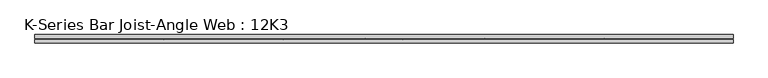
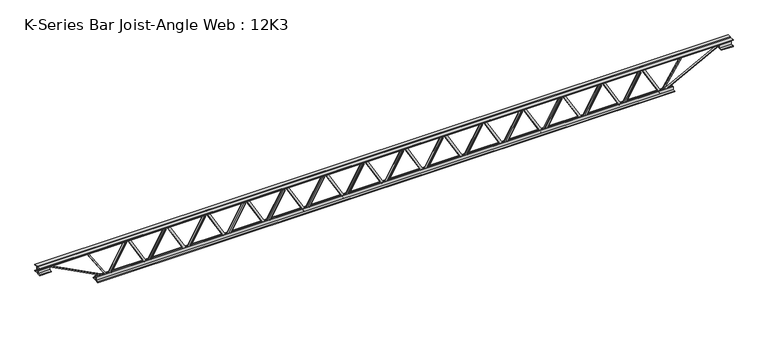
"""IFC4 building model written with IfcOpenShell, lengths in millimetres: beam geometry, K-Series Bar Joist-Angle Web : 12K3."""

import ifcopenshell
import ifcopenshell.guid

model = None  # the IFC model being written
_history = None  # IfcOwnerHistory: only IFC2X3 demands one
_inside = {}  # id of a spatial element -> (the spatial element, [elements in it])
_under = {}  # id of a project, library or spatial element -> (it, [spatial elements below it])
_declared = {}  # id of a project -> (the project, [libraries it declares])
_typed = {}  # id of a type object -> (the type object, [elements of that type])
_made_of = {}  # id of a material, layer set ... -> (it, [elements and type objects made of it])


def new_model(schema):
    """Start an empty IFC model of exactly this schema.

    Asked for "IFC4X3", IfcOpenShell would pick the latest addendum, in which some entities
    have other attributes; the version numbers below select the first issue.
    IFC2X3 requires an IfcOwnerHistory on every rooted entity: one is made here for all.
    """
    global model, _history
    if schema == "IFC4X3":
        model = ifcopenshell.file(schema_version=(4, 3, 0, 0))
    else:
        model = ifcopenshell.file(schema=schema)
    _inside.clear()
    _under.clear()
    _declared.clear()
    _typed.clear()
    _made_of.clear()
    _history = None
    if model.schema == "IFC2X3":
        org = make("IfcOrganization", Name="unknown")
        user = make(
            "IfcPersonAndOrganization",
            ThePerson=make("IfcPerson", FamilyName="unknown"),
            TheOrganization=org,
        )
        app = make(
            "IfcApplication",
            ApplicationDeveloper=org,
            Version="unknown",
            ApplicationFullName="unknown",
            ApplicationIdentifier="unknown",
        )
        _history = make(
            "IfcOwnerHistory",
            OwningUser=user,
            OwningApplication=app,
            ChangeAction="ADDED",
            CreationDate=0,
        )
    return model


def make(cls, **values):
    """One entity of the class cls with the attributes given. An attribute that is None is left unset."""
    return model.create_entity(
        cls, **{name: value for name, value in values.items() if value is not None}
    )


def rooted(cls, **values):
    """An entity with a GlobalId (a new one), such as an element, a storey or a relation."""
    return make(cls, GlobalId=ifcopenshell.guid.new(), OwnerHistory=_history, **values)


def si_unit(unit_type, name, prefix=None):
    """IfcSIUnit, for example si_unit("LENGTHUNIT", "METRE", prefix="MILLI")."""
    return make("IfcSIUnit", UnitType=unit_type, Prefix=prefix, Name=name)


def assignment(units):
    """IfcUnitAssignment: the units of a project."""
    return None if units is None else make("IfcUnitAssignment", Units=units)


def point(xyz):
    """IfcCartesianPoint."""
    return None if xyz is None else make("IfcCartesianPoint", Coordinates=xyz)


def direction(xyz):
    """IfcDirection."""
    return None if xyz is None else make("IfcDirection", DirectionRatios=xyz)


def frame(location, z_axis=None, x_axis=None):
    """IfcAxis2Placement3D, a coordinate frame: its origin and axes. An axis left out is left unset."""
    return make(
        "IfcAxis2Placement3D",
        Location=point(location),
        Axis=direction(z_axis),
        RefDirection=direction(x_axis),
    )


def origin():
    """The frame at (0, 0, 0) with its axes left unset."""
    return frame((0.0, 0.0, 0.0))


def place(relative_to, where):
    """IfcLocalPlacement: puts the frame where relative to a parent placement (None: the world)."""
    return make(
        "IfcLocalPlacement", PlacementRelTo=relative_to, RelativePlacement=where
    )


def context(
    kind, dimensions, precision=None, world=None, true_north=None, identifier=None
):
    """IfcGeometricRepresentationContext, for example the 3D "Model" context."""
    return make(
        "IfcGeometricRepresentationContext",
        ContextIdentifier=identifier,
        ContextType=kind,
        CoordinateSpaceDimension=dimensions,
        Precision=precision,
        WorldCoordinateSystem=world,
        TrueNorth=true_north,
    )


def project(units=None, contexts=None):
    """IfcProject with its units and contexts."""
    return rooted(
        "IfcProject",
        Name="project",
        RepresentationContexts=contexts,
        UnitsInContext=assignment(units),
    )


def spatial(cls, under=None, at=None, **own):
    """A site, building, storey or space (cls), placed at a placement, below another one or the project."""
    s = rooted(cls, ObjectPlacement=at, **own)
    if under is not None:
        _under.setdefault(under.id(), (under, []))[1].append(s)
    return s


def polyline(points):
    """IfcPolyline through the points."""
    return make("IfcPolyline", Points=[point(p) for p in points])


def outline(outer, holes=None, kind="AREA"):
    """IfcArbitraryClosedProfileDef: a profile drawn as a closed curve; with holes, ...WithVoids."""
    if holes is None:
        return make("IfcArbitraryClosedProfileDef", ProfileType=kind, OuterCurve=outer)
    return make(
        "IfcArbitraryProfileDefWithVoids",
        ProfileType=kind,
        OuterCurve=outer,
        InnerCurves=holes,
    )


def extrude(swept, where, along, depth):
    """IfcExtrudedAreaSolid: the profile swept, set in the frame where, extruded along a direction by depth."""
    return make(
        "IfcExtrudedAreaSolid",
        SweptArea=swept,
        Position=where,
        ExtrudedDirection=direction(along),
        Depth=depth,
    )


def faces_of(points, faces, orient=None, outer=None):
    """IfcFace entities. A face is a list of loops; a loop is a list of indices into points, from 0.

    orient and outer hold one flag for each loop. By default every Orientation is true, the
    first loop of a face is its IfcFaceOuterBound and the others are IfcFaceBound.
    """
    made = []
    for i, loops in enumerate(faces):
        bounds = []
        for j, loop in enumerate(loops):
            is_outer = j == 0 if outer is None else outer[i][j]
            bounds.append(
                make(
                    "IfcFaceOuterBound" if is_outer else "IfcFaceBound",
                    Bound=make("IfcPolyLoop", Polygon=[points[k] for k in loop]),
                    Orientation=True if orient is None else orient[i][j],
                )
            )
        made.append(make("IfcFace", Bounds=bounds))
    return made


def faceted_brep(points, faces, orient=None, outer=None, voids=None):
    """IfcFacetedBrep: a solid bounded by flat faces; with voids (closed shells), ...WithVoids."""
    shared = [point(p) for p in points]
    hull = make("IfcClosedShell", CfsFaces=faces_of(shared, faces, orient, outer))
    if voids is None:
        return make("IfcFacetedBrep", Outer=hull)
    return make(
        "IfcFacetedBrepWithVoids",
        Outer=hull,
        Voids=[
            make(cls, CfsFaces=faces_of(shared, fs, o, b)) for cls, fs, o, b in voids
        ],
    )


def shape(context_of_items, identifier, shape_type, items):
    """IfcShapeRepresentation: the items that make up one representation, for example the "Body"."""
    return make(
        "IfcShapeRepresentation",
        ContextOfItems=context_of_items,
        RepresentationIdentifier=identifier,
        RepresentationType=shape_type,
        Items=items,
    )


def source(mapping_origin, context_of_items, identifier, shape_type, items):
    """IfcRepresentationMap: a shape defined once, which mapped items show again and again."""
    return make(
        "IfcRepresentationMap",
        MappingOrigin=mapping_origin,
        MappedRepresentation=shape(context_of_items, identifier, shape_type, items),
    )


def transform(
    local_origin,
    x_axis=None,
    y_axis=None,
    z_axis=None,
    scale=None,
    scale2=None,
    scale3=None,
    uniform=True,
):
    """IfcCartesianTransformationOperator3D, or its non-uniform kind. x_axis, y_axis, z_axis: its Axis1, 2, 3."""
    if uniform:
        return make(
            "IfcCartesianTransformationOperator3D",
            Axis1=direction(x_axis),
            Axis2=direction(y_axis),
            LocalOrigin=point(local_origin),
            Scale=scale,
            Axis3=direction(z_axis),
        )
    return make(
        "IfcCartesianTransformationOperator3DnonUniform",
        Axis1=direction(x_axis),
        Axis2=direction(y_axis),
        LocalOrigin=point(local_origin),
        Scale=scale,
        Axis3=direction(z_axis),
        Scale2=scale2,
        Scale3=scale3,
    )


def mapped(mapping_source, mapping_target):
    """IfcMappedItem: shows the shape of a source again, moved by a transform."""
    return make(
        "IfcMappedItem", MappingSource=mapping_source, MappingTarget=mapping_target
    )


def made_of(thing, what):
    """Note that an element or type object is made of a material, layer set ...; save() writes the relation."""
    if what is not None:
        _made_of.setdefault(what.id(), (what, []))[1].append(thing)
    return thing


def element(
    cls,
    number,
    at=None,
    inside=None,
    cuts=None,
    type_object=None,
    material=None,
    context=None,
    identifier="Body",
    shape_type=None,
    held_by="IfcProductDefinitionShape",
    body=None,
    shapes=None,
    **own,
):
    """One element of the class cls, such as IfcWall. Its Tag is "e" and its number.

    at: its placement. inside: the storey or other place that contains it. cuts: it is an
    opening in that element (IfcRelVoidsElement). A single representation is given by context,
    identifier, shape_type and body (its items); several are given by shapes. held_by: the class
    of the entity that holds the representations. save() writes the other relations.
    """
    e = rooted(cls, Tag="e%d" % number, ObjectPlacement=at, **own)
    if body is not None:
        shapes = [shape(context, identifier, shape_type, body)]
    if shapes is not None:
        e.Representation = make(held_by, Representations=shapes)
    if inside is not None:
        _inside.setdefault(inside.id(), (inside, []))[1].append(e)
    if cuts is not None:
        rooted(
            "IfcRelVoidsElement", RelatingBuildingElement=cuts, RelatedOpeningElement=e
        )
    if type_object is not None:
        _typed.setdefault(type_object.id(), (type_object, []))[1].append(e)
    return made_of(e, material)


def aggregate(whole, parts):
    """IfcRelAggregates: a whole, such as a stair, and the parts it consists of."""
    return rooted("IfcRelAggregates", RelatingObject=whole, RelatedObjects=parts)


def save(model, path):
    """Write the relations noted so far, then the file.

    IfcRelAggregates (storeys below a building ...), IfcRelContainedInSpatialStructure (elements
    in a storey), IfcRelDefinesByType, IfcRelAssociatesMaterial and IfcRelDeclares: one each for
    every whole, place, type object, material and project.
    """
    for whole, parts in _under.values():
        aggregate(whole, parts)
    for where, things in _inside.values():
        rooted(
            "IfcRelContainedInSpatialStructure",
            RelatedElements=things,
            RelatingStructure=where,
        )
    for kind, things in _typed.values():
        rooted("IfcRelDefinesByType", RelatedObjects=things, RelatingType=kind)
    for what, things in _made_of.values():
        rooted("IfcRelAssociatesMaterial", RelatedObjects=things, RelatingMaterial=what)
    for by, libraries in _declared.values():
        rooted("IfcRelDeclares", RelatingContext=by, RelatedDefinitions=libraries)
    model.write(path)


def k_series_bar_joist_angle_web_12k3_b1730def(model_context):
    return source(origin(), model_context, "Body", "SolidModel", [
        extrude(outline(polyline([(-4.7625, 4.7624999), (-4.7625, 0.0), (-17.4625, 0.0), (-17.4625, 4.7624999), (-4.7625, 4.7624999)])), frame((2043.8650608, 0.0, -114.3), z_axis=(-0.4974653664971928, 0.0, 0.8674838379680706), x_axis=(0.0, -1.0, 0.0)), (0.0, 0.0, 1.0), 263.5207597),
        extrude(outline(polyline([(-149.225, 2075.7609203), (-130.175, 2075.7609203), (-130.175, 2074.9287665), (149.225, 1914.7046594), (149.225, 1896.4868132), (130.175, 1896.4868132), (130.175, 1903.668967), (-149.225, 2063.8930741), (-149.225, 2075.7609203)])), frame((0.0, 0.0, 0.0), z_axis=(0.0, 1.0, 0.0), x_axis=(0.0, 0.0, 1.0)), (0.0, 0.0, 1.0), 4.7625),
        faceted_brep([(1729.912706, 0.0, -130.175), (1729.912706, 0.0, -149.225), (1729.912706, -4.7625, -149.225), (1729.912706, -4.7625, -130.175), (1730.7448599, 0.0, -130.175), (1890.968967, 0.0, 149.225), (1909.1868132, 0.0, 149.225), (1909.1868132, 0.0, 130.175), (1902.0046594, 0.0, 130.175), (1741.7805522, 0.0, -149.225), (1741.7805522, -4.7625, -149.225), (1761.8085656, -4.7625, -114.3), (1757.6771738, -4.7625, -111.9308212), (1888.7696251, -4.7625, 116.6691788), (1892.9010169, -4.7625, 114.3), (1902.0046594, -4.7625, 130.175), (1909.1868132, -4.7625, 130.175), (1909.1868132, -4.7625, 149.225), (1890.968967, -4.7625, 149.225), (1730.7448599, -4.7625, -130.175), (1892.9010169, -17.4625, 114.3), (1761.8085656, -17.4625, -114.3), (1757.6771738, -17.4625, -111.9308212), (1888.7696251, -17.4625, 116.6691788)], [[[0, 1, 2, 3]], [[1, 0, 4, 5, 6, 7, 8, 9]], [[2, 1, 9, 10]], [[3, 2, 10, 11, 12, 13, 14, 15, 16, 17, 18, 19]], [[0, 3, 19, 4]], [[9, 8, 15, 14, 20, 21, 11, 10]], [[5, 4, 19, 18]], [[7, 6, 17, 16]], [[8, 7, 16, 15]], [[6, 5, 18, 17]], [[21, 22, 12, 11]], [[20, 14, 13, 23]], [[22, 21, 20, 23]], [[12, 22, 23, 13]]]),
        extrude(outline(polyline([(-4.7625, 4.7625), (-4.7625, 0.0), (-17.4625, 0.0), (-17.4625, 4.7625), (-4.7625, 4.7625)])), frame((1697.8947311, 0.0, -114.3), z_axis=(-0.4974653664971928, 0.0, 0.8674838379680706), x_axis=(0.0, -1.0, 0.0)), (0.0, 0.0, 1.0), 263.5207597),
        extrude(outline(polyline([(-149.225, 1729.7905907), (-130.175, 1729.7905907), (-130.175, 1728.9584368), (149.225, 1568.7343297), (149.225, 1550.5164835), (130.175, 1550.5164835), (130.175, 1557.6986373), (-149.225, 1717.9227445), (-149.225, 1729.7905907)])), frame((0.0, 0.0, 0.0), z_axis=(0.0, 1.0, 0.0), x_axis=(0.0, 0.0, 1.0)), (0.0, 0.0, 1.0), 4.7625),
        faceted_brep([(1383.9423764, 0.0, -130.175), (1383.9423764, 0.0, -149.225), (1383.9423764, -4.7625, -149.225), (1383.9423764, -4.7625, -130.175), (1384.7745302, 0.0, -130.175), (1544.9986373, 0.0, 149.225), (1563.2164835, 0.0, 149.225), (1563.2164835, 0.0, 130.175), (1556.0343297, 0.0, 130.175), (1395.8102226, 0.0, -149.225), (1395.8102226, -4.7625, -149.225), (1415.8382359, -4.7625, -114.3), (1411.7068442, -4.7625, -111.9308212), (1542.7992955, -4.7625, 116.6691788), (1546.9306872, -4.7625, 114.3), (1556.0343297, -4.7625, 130.175), (1563.2164835, -4.7625, 130.175), (1563.2164835, -4.7625, 149.225), (1544.9986373, -4.7625, 149.225), (1384.7745302, -4.7625, -130.175), (1546.9306872, -17.4625, 114.3), (1415.8382359, -17.4625, -114.3), (1411.7068442, -17.4625, -111.9308212), (1542.7992955, -17.4625, 116.6691788)], [[[0, 1, 2, 3]], [[1, 0, 4, 5, 6, 7, 8, 9]], [[2, 1, 9, 10]], [[3, 2, 10, 11, 12, 13, 14, 15, 16, 17, 18, 19]], [[0, 3, 19, 4]], [[9, 8, 15, 14, 20, 21, 11, 10]], [[5, 4, 19, 18]], [[7, 6, 17, 16]], [[8, 7, 16, 15]], [[6, 5, 18, 17]], [[21, 22, 12, 11]], [[20, 14, 13, 23]], [[22, 21, 20, 23]], [[12, 22, 23, 13]]]),
        extrude(outline(polyline([(-4.7625, 4.7625), (-4.7625, 0.0), (-17.4625, 0.0), (-17.4625, 4.7625), (-4.7625, 4.7625)])), frame((1351.9244014, 0.0, -114.3), z_axis=(-0.4974653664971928, 0.0, 0.8674838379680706), x_axis=(0.0, -1.0, 0.0)), (0.0, 0.0, 1.0), 263.5207597),
        extrude(outline(polyline([(-149.225, 1383.820261), (-130.175, 1383.820261), (-130.175, 1382.9881072), (149.225, 1222.764), (149.225, 1204.5461538), (130.175, 1204.5461538), (130.175, 1211.7283077), (-149.225, 1371.9524148), (-149.225, 1383.820261)])), frame((0.0, 0.0, 0.0), z_axis=(0.0, 1.0, 0.0), x_axis=(0.0, 0.0, 1.0)), (0.0, 0.0, 1.0), 4.7625),
        faceted_brep([(1037.9720467, 0.0, -130.175), (1037.9720467, 0.0, -149.225), (1037.9720467, -4.7625, -149.225), (1037.9720467, -4.7625, -130.175), (1038.8042005, 0.0, -130.175), (1199.0283077, 0.0, 149.225), (1217.2461538, 0.0, 149.225), (1217.2461538, 0.0, 130.175), (1210.064, 0.0, 130.175), (1049.8398929, 0.0, -149.225), (1049.8398929, -4.7625, -149.225), (1069.8679063, -4.7625, -114.3), (1065.7365145, -4.7625, -111.9308212), (1196.8289658, -4.7625, 116.6691788), (1200.9603576, -4.7625, 114.3), (1210.064, -4.7625, 130.175), (1217.2461538, -4.7625, 130.175), (1217.2461538, -4.7625, 149.225), (1199.0283077, -4.7625, 149.225), (1038.8042005, -4.7625, -130.175), (1200.9603576, -17.4625, 114.3), (1069.8679063, -17.4625, -114.3), (1065.7365145, -17.4625, -111.9308212), (1196.8289658, -17.4625, 116.6691788)], [[[0, 1, 2, 3]], [[1, 0, 4, 5, 6, 7, 8, 9]], [[2, 1, 9, 10]], [[3, 2, 10, 11, 12, 13, 14, 15, 16, 17, 18, 19]], [[0, 3, 19, 4]], [[9, 8, 15, 14, 20, 21, 11, 10]], [[5, 4, 19, 18]], [[7, 6, 17, 16]], [[8, 7, 16, 15]], [[6, 5, 18, 17]], [[21, 22, 12, 11]], [[20, 14, 13, 23]], [[22, 21, 20, 23]], [[12, 22, 23, 13]]]),
        extrude(outline(polyline([(-4.7625, 4.7625), (-4.7625, 0.0), (-17.4625, 0.0), (-17.4625, 4.7625), (-4.7625, 4.7625)])), frame((1005.9540717, 0.0, -114.3), z_axis=(-0.4974653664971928, 0.0, 0.8674838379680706), x_axis=(0.0, -1.0, 0.0)), (0.0, 0.0, 1.0), 263.5207597),
        extrude(outline(polyline([(-149.225, 1037.8499313), (-130.175, 1037.8499313), (-130.175, 1037.0177775), (149.225, 876.7936704), (149.225, 858.5758242), (130.175, 858.5758242), (130.175, 865.757978), (-149.225, 1025.9820851), (-149.225, 1037.8499313)])), frame((0.0, 0.0, 0.0), z_axis=(0.0, 1.0, 0.0), x_axis=(0.0, 0.0, 1.0)), (0.0, 0.0, 1.0), 4.7625),
        faceted_brep([(692.001717, 0.0, -130.175), (692.001717, 0.0, -149.225), (692.001717, -4.7625, -149.225), (692.001717, -4.7625, -130.175), (692.8338709, 0.0, -130.175), (853.057978, 0.0, 149.225), (871.2758242, 0.0, 149.225), (871.2758242, 0.0, 130.175), (864.0936704, 0.0, 130.175), (703.8695632, 0.0, -149.225), (703.8695632, -4.7625, -149.225), (723.8975766, -4.7625, -114.3), (719.7661848, -4.7625, -111.9308212), (850.8586361, -4.7625, 116.6691788), (854.9900279, -4.7625, 114.3), (864.0936704, -4.7625, 130.175), (871.2758242, -4.7625, 130.175), (871.2758242, -4.7625, 149.225), (853.057978, -4.7625, 149.225), (692.8338709, -4.7625, -130.175), (854.9900279, -17.4625, 114.3), (723.8975766, -17.4625, -114.3), (719.7661848, -17.4625, -111.9308212), (850.8586361, -17.4625, 116.6691788)], [[[0, 1, 2, 3]], [[1, 0, 4, 5, 6, 7, 8, 9]], [[2, 1, 9, 10]], [[3, 2, 10, 11, 12, 13, 14, 15, 16, 17, 18, 19]], [[0, 3, 19, 4]], [[9, 8, 15, 14, 20, 21, 11, 10]], [[5, 4, 19, 18]], [[7, 6, 17, 16]], [[8, 7, 16, 15]], [[6, 5, 18, 17]], [[21, 22, 12, 11]], [[20, 14, 13, 23]], [[22, 21, 20, 23]], [[12, 22, 23, 13]]]),
        extrude(outline(polyline([(-4.7625, 4.7625), (-4.7625, 0.0), (-17.4625, 0.0), (-17.4625, 4.7625), (-4.7625, 4.7625)])), frame((659.9837421, 0.0, -114.3), z_axis=(-0.4974653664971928, 0.0, 0.8674838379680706), x_axis=(0.0, -1.0, 0.0)), (0.0, 0.0, 1.0), 263.5207597),
        extrude(outline(polyline([(-149.225, 691.8796016), (-130.175, 691.8796016), (-130.175, 691.0474478), (149.225, 530.8233407), (149.225, 512.6054945), (130.175, 512.6054945), (130.175, 519.7876483), (-149.225, 680.0117555), (-149.225, 691.8796016)])), frame((0.0, 0.0, 0.0), z_axis=(0.0, 1.0, 0.0), x_axis=(0.0, 0.0, 1.0)), (0.0, 0.0, 1.0), 4.7625),
        faceted_brep([(346.0313874, 0.0, -130.175), (346.0313874, 0.0, -149.225), (346.0313874, -4.7625, -149.225), (346.0313874, -4.7625, -130.175), (346.8635412, 0.0, -130.175), (507.0876483, 0.0, 149.225), (525.3054945, 0.0, 149.225), (525.3054945, 0.0, 130.175), (518.1233407, 0.0, 130.175), (357.8992335, 0.0, -149.225), (357.8992335, -4.7625, -149.225), (377.9272469, -4.7625, -114.3), (373.7958552, -4.7625, -111.9308212), (504.8883065, -4.7625, 116.6691788), (509.0196982, -4.7625, 114.3), (518.1233407, -4.7625, 130.175), (525.3054945, -4.7625, 130.175), (525.3054945, -4.7625, 149.225), (507.0876483, -4.7625, 149.225), (346.8635412, -4.7625, -130.175), (509.0196982, -17.4625, 114.3), (377.9272469, -17.4625, -114.3), (373.7958552, -17.4625, -111.9308212), (504.8883065, -17.4625, 116.6691788)], [[[0, 1, 2, 3]], [[1, 0, 4, 5, 6, 7, 8, 9]], [[2, 1, 9, 10]], [[3, 2, 10, 11, 12, 13, 14, 15, 16, 17, 18, 19]], [[0, 3, 19, 4]], [[9, 8, 15, 14, 20, 21, 11, 10]], [[5, 4, 19, 18]], [[7, 6, 17, 16]], [[8, 7, 16, 15]], [[6, 5, 18, 17]], [[21, 22, 12, 11]], [[20, 14, 13, 23]], [[22, 21, 20, 23]], [[12, 22, 23, 13]]]),
        extrude(outline(polyline([(-4.7625, 4.7625), (-4.7625, 0.0), (-17.4625, 0.0), (-17.4625, 4.7625), (-4.7625, 4.7625)])), frame((314.0134124, 0.0, -114.3), z_axis=(-0.4974653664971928, 0.0, 0.8674838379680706), x_axis=(0.0, -1.0, 0.0)), (0.0, 0.0, 1.0), 263.5207597),
        extrude(outline(polyline([(-149.225, 345.909272), (-130.175, 345.909272), (-130.175, 345.0771182), (149.225, 184.853011), (149.225, 166.6351648), (130.175, 166.6351648), (130.175, 173.8173187), (-149.225, 334.0414258), (-149.225, 345.909272)])), frame((0.0, 0.0, 0.0), z_axis=(0.0, 1.0, 0.0), x_axis=(0.0, 0.0, 1.0)), (0.0, 0.0, 1.0), 4.7625),
        faceted_brep([(0.0610577, 0.0, -130.175), (0.0610577, 0.0, -149.225), (0.0610577, -4.7625, -149.225), (0.0610577, -4.7625, -130.175), (0.8932115, 0.0, -130.175), (161.1173187, 0.0, 149.225), (179.3351648, 0.0, 149.225), (179.3351648, 0.0, 130.175), (172.153011, 0.0, 130.175), (11.9289039, 0.0, -149.225), (11.9289039, -4.7625, -149.225), (31.9569173, -4.7625, -114.3), (27.8255255, -4.7625, -111.9308212), (158.9179768, -4.7625, 116.6691788), (163.0493686, -4.7625, 114.3), (172.153011, -4.7625, 130.175), (179.3351648, -4.7625, 130.175), (179.3351648, -4.7625, 149.225), (161.1173187, -4.7625, 149.225), (0.8932115, -4.7625, -130.175), (163.0493686, -17.4625, 114.3), (31.9569173, -17.4625, -114.3), (27.8255255, -17.4625, -111.9308212), (158.9179768, -17.4625, 116.6691788)], [[[0, 1, 2, 3]], [[1, 0, 4, 5, 6, 7, 8, 9]], [[2, 1, 9, 10]], [[3, 2, 10, 11, 12, 13, 14, 15, 16, 17, 18, 19]], [[0, 3, 19, 4]], [[9, 8, 15, 14, 20, 21, 11, 10]], [[5, 4, 19, 18]], [[7, 6, 17, 16]], [[8, 7, 16, 15]], [[6, 5, 18, 17]], [[21, 22, 12, 11]], [[20, 14, 13, 23]], [[22, 21, 20, 23]], [[12, 22, 23, 13]]]),
        extrude(outline(polyline([(-4.7625, 4.7625), (-4.7625, 0.0), (-17.4625, 0.0), (-17.4625, 4.7625), (-4.7625, 4.7625)])), frame((-31.9569173, 0.0, -114.3), z_axis=(-0.4974653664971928, 0.0, 0.8674838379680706), x_axis=(0.0, -1.0, 0.0)), (0.0, 0.0, 1.0), 263.5207597),
        extrude(outline(polyline([(-149.225, -0.0610577), (-130.175, -0.0610577), (-130.175, -0.8932115), (149.225, -161.1173187), (149.225, -179.3351648), (130.175, -179.3351648), (130.175, -172.153011), (-149.225, -11.9289039), (-149.225, -0.0610577)])), frame((0.0, 0.0, 0.0), z_axis=(0.0, 1.0, 0.0), x_axis=(0.0, 0.0, 1.0)), (0.0, 0.0, 1.0), 4.7625),
        faceted_brep([(-345.909272, 0.0, -130.175), (-345.909272, 0.0, -149.225), (-345.909272, -4.7625, -149.225), (-345.909272, -4.7625, -130.175), (-345.0771182, 0.0, -130.175), (-184.853011, 0.0, 149.225), (-166.6351648, 0.0, 149.225), (-166.6351648, 0.0, 130.175), (-173.8173187, 0.0, 130.175), (-334.0414258, 0.0, -149.225), (-334.0414258, -4.7625, -149.225), (-314.0134124, -4.7625, -114.3), (-318.1448042, -4.7625, -111.9308212), (-187.0523529, -4.7625, 116.6691788), (-182.9209611, -4.7625, 114.3), (-173.8173187, -4.7625, 130.175), (-166.6351648, -4.7625, 130.175), (-166.6351648, -4.7625, 149.225), (-184.853011, -4.7625, 149.225), (-345.0771182, -4.7625, -130.175), (-182.9209611, -17.4625, 114.3), (-314.0134124, -17.4625, -114.3), (-318.1448042, -17.4625, -111.9308212), (-187.0523529, -17.4625, 116.6691788)], [[[0, 1, 2, 3]], [[1, 0, 4, 5, 6, 7, 8, 9]], [[2, 1, 9, 10]], [[3, 2, 10, 11, 12, 13, 14, 15, 16, 17, 18, 19]], [[0, 3, 19, 4]], [[9, 8, 15, 14, 20, 21, 11, 10]], [[5, 4, 19, 18]], [[7, 6, 17, 16]], [[8, 7, 16, 15]], [[6, 5, 18, 17]], [[21, 22, 12, 11]], [[20, 14, 13, 23]], [[22, 21, 20, 23]], [[12, 22, 23, 13]]]),
        extrude(outline(polyline([(-4.7625, 4.7624999), (-4.7625, 0.0), (-17.4625, 0.0), (-17.4625, 4.7624999), (-4.7625, 4.7624999)])), frame((-377.9272469, 0.0, -114.3), z_axis=(-0.4974653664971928, 0.0, 0.8674838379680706), x_axis=(0.0, -1.0, 0.0)), (0.0, 0.0, 1.0), 263.5207597),
        extrude(outline(polyline([(-149.225, -346.0313874), (-130.175, -346.0313874), (-130.175, -346.8635412), (149.225, -507.0876483), (149.225, -525.3054945), (130.175, -525.3054945), (130.175, -518.1233407), (-149.225, -357.8992335), (-149.225, -346.0313874)])), frame((0.0, 0.0, 0.0), z_axis=(0.0, 1.0, 0.0), x_axis=(0.0, 0.0, 1.0)), (0.0, 0.0, 1.0), 4.7625),
        faceted_brep([(-691.8796016, 0.0, -130.175), (-691.8796016, 0.0, -149.225), (-691.8796016, -4.7625, -149.225), (-691.8796016, -4.7625, -130.175), (-691.0474478, 0.0, -130.175), (-530.8233407, 0.0, 149.225), (-512.6054945, 0.0, 149.225), (-512.6054945, 0.0, 130.175), (-519.7876483, 0.0, 130.175), (-680.0117555, 0.0, -149.225), (-680.0117555, -4.7625, -149.225), (-659.9837421, -4.7625, -114.3), (-664.1151339, -4.7625, -111.9308212), (-533.0226826, -4.7625, 116.6691788), (-528.8912908, -4.7625, 114.3), (-519.7876483, -4.7625, 130.175), (-512.6054945, -4.7625, 130.175), (-512.6054945, -4.7625, 149.225), (-530.8233407, -4.7625, 149.225), (-691.0474478, -4.7625, -130.175), (-528.8912908, -17.4625, 114.3), (-659.9837421, -17.4625, -114.3), (-664.1151339, -17.4625, -111.9308212), (-533.0226826, -17.4625, 116.6691788)], [[[0, 1, 2, 3]], [[1, 0, 4, 5, 6, 7, 8, 9]], [[2, 1, 9, 10]], [[3, 2, 10, 11, 12, 13, 14, 15, 16, 17, 18, 19]], [[0, 3, 19, 4]], [[9, 8, 15, 14, 20, 21, 11, 10]], [[5, 4, 19, 18]], [[7, 6, 17, 16]], [[8, 7, 16, 15]], [[6, 5, 18, 17]], [[21, 22, 12, 11]], [[20, 14, 13, 23]], [[22, 21, 20, 23]], [[12, 22, 23, 13]]]),
        extrude(outline(polyline([(-4.7625, 4.7625), (-4.7625, 0.0), (-17.4625, 0.0), (-17.4625, 4.7625), (-4.7625, 4.7625)])), frame((-723.8975766, 0.0, -114.3), z_axis=(-0.4974653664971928, 0.0, 0.8674838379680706), x_axis=(0.0, -1.0, 0.0)), (0.0, 0.0, 1.0), 263.5207597),
        extrude(outline(polyline([(-149.225, -692.001717), (-130.175, -692.001717), (-130.175, -692.8338708), (149.225, -853.057978), (149.225, -871.2758242), (130.175, -871.2758242), (130.175, -864.0936704), (-149.225, -703.8695632), (-149.225, -692.001717)])), frame((0.0, 0.0, 0.0), z_axis=(0.0, 1.0, 0.0), x_axis=(0.0, 0.0, 1.0)), (0.0, 0.0, 1.0), 4.7625),
        faceted_brep([(-1037.8499313, 0.0, -130.175), (-1037.8499313, 0.0, -149.225), (-1037.8499313, -4.7625, -149.225), (-1037.8499313, -4.7625, -130.175), (-1037.0177775, 0.0, -130.175), (-876.7936704, 0.0, 149.225), (-858.5758242, 0.0, 149.225), (-858.5758242, 0.0, 130.175), (-865.757978, 0.0, 130.175), (-1025.9820851, 0.0, -149.225), (-1025.9820851, -4.7625, -149.225), (-1005.9540717, -4.7625, -114.3), (-1010.0854635, -4.7625, -111.9308212), (-878.9930122, -4.7625, 116.6691788), (-874.8616204, -4.7625, 114.3), (-865.757978, -4.7625, 130.175), (-858.5758242, -4.7625, 130.175), (-858.5758242, -4.7625, 149.225), (-876.7936704, -4.7625, 149.225), (-1037.0177775, -4.7625, -130.175), (-874.8616204, -17.4625, 114.3), (-1005.9540717, -17.4625, -114.3), (-1010.0854635, -17.4625, -111.9308212), (-878.9930122, -17.4625, 116.6691788)], [[[0, 1, 2, 3]], [[1, 0, 4, 5, 6, 7, 8, 9]], [[2, 1, 9, 10]], [[3, 2, 10, 11, 12, 13, 14, 15, 16, 17, 18, 19]], [[0, 3, 19, 4]], [[9, 8, 15, 14, 20, 21, 11, 10]], [[5, 4, 19, 18]], [[7, 6, 17, 16]], [[8, 7, 16, 15]], [[6, 5, 18, 17]], [[21, 22, 12, 11]], [[20, 14, 13, 23]], [[22, 21, 20, 23]], [[12, 22, 23, 13]]]),
        extrude(outline(polyline([(-4.7625, 4.7625), (-4.7625, 0.0), (-17.4625, 0.0), (-17.4625, 4.7625), (-4.7625, 4.7625)])), frame((-1069.8679063, 0.0, -114.3), z_axis=(-0.4974653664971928, 0.0, 0.8674838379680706), x_axis=(0.0, -1.0, 0.0)), (0.0, 0.0, 1.0), 263.5207597),
        extrude(outline(polyline([(-149.225, -1037.9720467), (-130.175, -1037.9720467), (-130.175, -1038.8042005), (149.225, -1199.0283077), (149.225, -1217.2461538), (130.175, -1217.2461538), (130.175, -1210.064), (-149.225, -1049.8398929), (-149.225, -1037.9720467)])), frame((0.0, 0.0, 0.0), z_axis=(0.0, 1.0, 0.0), x_axis=(0.0, 0.0, 1.0)), (0.0, 0.0, 1.0), 4.7625),
        faceted_brep([(-1383.820261, 0.0, -130.175), (-1383.820261, 0.0, -149.225), (-1383.820261, -4.7625, -149.225), (-1383.820261, -4.7625, -130.175), (-1382.9881072, 0.0, -130.175), (-1222.764, 0.0, 149.225), (-1204.5461538, 0.0, 149.225), (-1204.5461538, 0.0, 130.175), (-1211.7283077, 0.0, 130.175), (-1371.9524148, 0.0, -149.225), (-1371.9524148, -4.7625, -149.225), (-1351.9244014, -4.7625, -114.3), (-1356.0557932, -4.7625, -111.9308212), (-1224.9633419, -4.7625, 116.6691788), (-1220.8319501, -4.7625, 114.3), (-1211.7283077, -4.7625, 130.175), (-1204.5461538, -4.7625, 130.175), (-1204.5461538, -4.7625, 149.225), (-1222.764, -4.7625, 149.225), (-1382.9881072, -4.7625, -130.175), (-1220.8319501, -17.4625, 114.3), (-1351.9244014, -17.4625, -114.3), (-1356.0557932, -17.4625, -111.9308212), (-1224.9633419, -17.4625, 116.6691788)], [[[0, 1, 2, 3]], [[1, 0, 4, 5, 6, 7, 8, 9]], [[2, 1, 9, 10]], [[3, 2, 10, 11, 12, 13, 14, 15, 16, 17, 18, 19]], [[0, 3, 19, 4]], [[9, 8, 15, 14, 20, 21, 11, 10]], [[5, 4, 19, 18]], [[7, 6, 17, 16]], [[8, 7, 16, 15]], [[6, 5, 18, 17]], [[21, 22, 12, 11]], [[20, 14, 13, 23]], [[22, 21, 20, 23]], [[12, 22, 23, 13]]]),
        extrude(outline(polyline([(-4.7625, 4.7624999), (-4.7625, 0.0), (-17.4625, 0.0), (-17.4625, 4.7624999), (-4.7625, 4.7624999)])), frame((-1415.8382359, 0.0, -114.3), z_axis=(-0.4974653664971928, 0.0, 0.8674838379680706), x_axis=(0.0, -1.0, 0.0)), (0.0, 0.0, 1.0), 263.5207597),
        extrude(outline(polyline([(-149.225, -1383.9423764), (-130.175, -1383.9423764), (-130.175, -1384.7745302), (149.225, -1544.9986373), (149.225, -1563.2164835), (130.175, -1563.2164835), (130.175, -1556.0343297), (-149.225, -1395.8102226), (-149.225, -1383.9423764)])), frame((0.0, 0.0, 0.0), z_axis=(0.0, 1.0, 0.0), x_axis=(0.0, 0.0, 1.0)), (0.0, 0.0, 1.0), 4.7625),
        faceted_brep([(-1729.7905907, 0.0, -130.175), (-1729.7905907, 0.0, -149.225), (-1729.7905907, -4.7625, -149.225), (-1729.7905907, -4.7625, -130.175), (-1728.9584368, 0.0, -130.175), (-1568.7343297, 0.0, 149.225), (-1550.5164835, 0.0, 149.225), (-1550.5164835, 0.0, 130.175), (-1557.6986373, 0.0, 130.175), (-1717.9227445, 0.0, -149.225), (-1717.9227445, -4.7625, -149.225), (-1697.8947311, -4.7625, -114.3), (-1702.0261229, -4.7625, -111.9308212), (-1570.9336716, -4.7625, 116.6691788), (-1566.8022798, -4.7625, 114.3), (-1557.6986373, -4.7625, 130.175), (-1550.5164835, -4.7625, 130.175), (-1550.5164835, -4.7625, 149.225), (-1568.7343297, -4.7625, 149.225), (-1728.9584368, -4.7625, -130.175), (-1566.8022798, -17.4625, 114.3), (-1697.8947311, -17.4625, -114.3), (-1702.0261229, -17.4625, -111.9308212), (-1570.9336716, -17.4625, 116.6691788)], [[[0, 1, 2, 3]], [[1, 0, 4, 5, 6, 7, 8, 9]], [[2, 1, 9, 10]], [[3, 2, 10, 11, 12, 13, 14, 15, 16, 17, 18, 19]], [[0, 3, 19, 4]], [[9, 8, 15, 14, 20, 21, 11, 10]], [[5, 4, 19, 18]], [[7, 6, 17, 16]], [[8, 7, 16, 15]], [[6, 5, 18, 17]], [[21, 22, 12, 11]], [[20, 14, 13, 23]], [[22, 21, 20, 23]], [[12, 22, 23, 13]]]),
        extrude(outline(polyline([(-4.7625, 4.7625), (-4.7625, 0.0), (-17.4625, 0.0), (-17.4625, 4.7625), (-4.7625, 4.7625)])), frame((-1761.8085656, 0.0, -114.3), z_axis=(-0.4974653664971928, 0.0, 0.8674838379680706), x_axis=(0.0, -1.0, 0.0)), (0.0, 0.0, 1.0), 263.5207597),
        extrude(outline(polyline([(-149.225, -1729.912706), (-130.175, -1729.912706), (-130.175, -1730.7448599), (149.225, -1890.968967), (149.225, -1909.1868132), (130.175, -1909.1868132), (130.175, -1902.0046594), (-149.225, -1741.7805522), (-149.225, -1729.912706)])), frame((0.0, 0.0, 0.0), z_axis=(0.0, 1.0, 0.0), x_axis=(0.0, 0.0, 1.0)), (0.0, 0.0, 1.0), 4.7625),
        faceted_brep([(-2075.7609203, 0.0, -130.175), (-2075.7609203, 0.0, -149.225), (-2075.7609203, -4.7625, -149.225), (-2075.7609203, -4.7625, -130.175), (-2074.9287665, 0.0, -130.175), (-1914.7046594, 0.0, 149.225), (-1896.4868132, 0.0, 149.225), (-1896.4868132, 0.0, 130.175), (-1903.668967, 0.0, 130.175), (-2063.8930741, 0.0, -149.225), (-2063.8930741, -4.7625, -149.225), (-2043.8650608, -4.7625, -114.3), (-2047.9964525, -4.7625, -111.9308212), (-1916.9040012, -4.7625, 116.6691788), (-1912.7726095, -4.7625, 114.3), (-1903.668967, -4.7625, 130.175), (-1896.4868132, -4.7625, 130.175), (-1896.4868132, -4.7625, 149.225), (-1914.7046594, -4.7625, 149.225), (-2074.9287665, -4.7625, -130.175), (-1912.7726095, -17.4625, 114.3), (-2043.8650608, -17.4625, -114.3), (-2047.9964525, -17.4625, -111.9308212), (-1916.9040012, -17.4625, 116.6691788)], [[[0, 1, 2, 3]], [[1, 0, 4, 5, 6, 7, 8, 9]], [[2, 1, 9, 10]], [[3, 2, 10, 11, 12, 13, 14, 15, 16, 17, 18, 19]], [[0, 3, 19, 4]], [[9, 8, 15, 14, 20, 21, 11, 10]], [[5, 4, 19, 18]], [[7, 6, 17, 16]], [[8, 7, 16, 15]], [[6, 5, 18, 17]], [[21, 22, 12, 11]], [[20, 14, 13, 23]], [[22, 21, 20, 23]], [[12, 22, 23, 13]]]),
        extrude(outline(polyline([(-4.7625, 4.7625), (-4.7625, 0.0), (-17.4625, 0.0), (-17.4625, 4.7625), (-4.7625, 4.7625)])), frame((2389.8353904, 0.0, -114.3), z_axis=(-0.4974653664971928, 0.0, 0.8674838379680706), x_axis=(0.0, -1.0, 0.0)), (0.0, 0.0, 1.0), 263.5207597),
        extrude(outline(polyline([(-149.225, 2421.73125), (-130.175, 2421.73125), (-130.175, 2420.8990962), (149.225, 2260.674989), (149.225, 2242.4571429), (130.175, 2242.4571429), (130.175, 2249.6392967), (-149.225, 2409.8634038), (-149.225, 2421.73125)])), frame((0.0, 0.0, 0.0), z_axis=(0.0, 1.0, 0.0), x_axis=(0.0, 0.0, 1.0)), (0.0, 0.0, 1.0), 4.7625),
        faceted_brep([(2075.8830357, 0.0, -130.175), (2075.8830357, 0.0, -149.225), (2075.8830357, -4.7625, -149.225), (2075.8830357, -4.7625, -130.175), (2076.7151895, 0.0, -130.175), (2236.9392967, 0.0, 149.225), (2255.1571429, 0.0, 149.225), (2255.1571429, 0.0, 130.175), (2247.974989, 0.0, 130.175), (2087.7508819, 0.0, -149.225), (2087.7508819, -4.7625, -149.225), (2107.7788953, -4.7625, -114.3), (2103.6475035, -4.7625, -111.9308212), (2234.7399548, -4.7625, 116.6691788), (2238.8713466, -4.7625, 114.3), (2247.974989, -4.7625, 130.175), (2255.1571429, -4.7625, 130.175), (2255.1571429, -4.7625, 149.225), (2236.9392967, -4.7625, 149.225), (2076.7151895, -4.7625, -130.175), (2238.8713466, -17.4625, 114.3), (2107.7788953, -17.4625, -114.3), (2103.6475035, -17.4625, -111.9308212), (2234.7399548, -17.4625, 116.6691788)], [[[0, 1, 2, 3]], [[1, 0, 4, 5, 6, 7, 8, 9]], [[2, 1, 9, 10]], [[3, 2, 10, 11, 12, 13, 14, 15, 16, 17, 18, 19]], [[0, 3, 19, 4]], [[9, 8, 15, 14, 20, 21, 11, 10]], [[5, 4, 19, 18]], [[7, 6, 17, 16]], [[8, 7, 16, 15]], [[6, 5, 18, 17]], [[21, 22, 12, 11]], [[20, 14, 13, 23]], [[22, 21, 20, 23]], [[12, 22, 23, 13]]]),
        extrude(outline(polyline([(-4.7625, 4.7625), (-4.7625, 0.0), (-17.4625, 0.0), (-17.4625, 4.7625), (-4.7625, 4.7625)])), frame((-2107.7788953, 0.0, -114.3), z_axis=(-0.4974653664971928, 0.0, 0.8674838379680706), x_axis=(0.0, -1.0, 0.0)), (0.0, 0.0, 1.0), 263.5207597),
        extrude(outline(polyline([(-149.225, -2075.8830357), (-130.175, -2075.8830357), (-130.175, -2076.7151895), (149.225, -2236.9392967), (149.225, -2255.1571429), (130.175, -2255.1571429), (130.175, -2247.974989), (-149.225, -2087.7508819), (-149.225, -2075.8830357)])), frame((0.0, 0.0, 0.0), z_axis=(0.0, 1.0, 0.0), x_axis=(0.0, 0.0, 1.0)), (0.0, 0.0, 1.0), 4.7625),
        faceted_brep([(-2421.73125, 0.0, -130.175), (-2421.73125, 0.0, -149.225), (-2421.73125, -4.7625, -149.225), (-2421.73125, -4.7625, -130.175), (-2420.8990962, 0.0, -130.175), (-2260.674989, 0.0, 149.225), (-2242.4571429, 0.0, 149.225), (-2242.4571429, 0.0, 130.175), (-2249.6392967, 0.0, 130.175), (-2409.8634038, 0.0, -149.225), (-2409.8634038, -4.7625, -149.225), (-2389.8353904, -4.7625, -114.3), (-2393.9667822, -4.7625, -111.9308212), (-2262.8743309, -4.7625, 116.6691788), (-2258.7429391, -4.7625, 114.3), (-2249.6392967, -4.7625, 130.175), (-2242.4571429, -4.7625, 130.175), (-2242.4571429, -4.7625, 149.225), (-2260.674989, -4.7625, 149.225), (-2420.8990962, -4.7625, -130.175), (-2258.7429391, -17.4625, 114.3), (-2389.8353904, -17.4625, -114.3), (-2393.9667822, -17.4625, -111.9308212), (-2262.8743309, -17.4625, 116.6691788)], [[[0, 1, 2, 3]], [[1, 0, 4, 5, 6, 7, 8, 9]], [[2, 1, 9, 10]], [[3, 2, 10, 11, 12, 13, 14, 15, 16, 17, 18, 19]], [[0, 3, 19, 4]], [[9, 8, 15, 14, 20, 21, 11, 10]], [[5, 4, 19, 18]], [[7, 6, 17, 16]], [[8, 7, 16, 15]], [[6, 5, 18, 17]], [[21, 22, 12, 11]], [[20, 14, 13, 23]], [[22, 21, 20, 23]], [[12, 22, 23, 13]]]),
        extrude(outline(polyline([(4.7625, 152.4), (36.5125, 152.4), (36.5125, 146.05), (11.1125, 146.05), (11.1125, 120.65), (4.7625, 120.65), (4.7625, 152.4)])), frame((-3031.33125, 0.0, 0.0), z_axis=(1.0, 0.0, 0.0), x_axis=(0.0, 1.0, 0.0)), (0.0, 0.0, 1.0), 6062.6625),
        extrude(outline(polyline([(-4.7625, 152.4), (-4.7625, 120.65), (-11.1125, 120.65), (-11.1125, 146.05), (-36.5125, 146.05), (-36.5125, 152.4), (-4.7625, 152.4)])), frame((-3031.33125, 0.0, 0.0), z_axis=(1.0, 0.0, 0.0), x_axis=(0.0, 1.0, 0.0)), (0.0, 0.0, 1.0), 6062.6625),
        extrude(outline(polyline([(-4.7625, 88.9), (-36.5125, 88.9), (-36.5125, 95.25), (-11.1125, 95.25), (-11.1125, 120.65), (-4.7625, 120.65), (-4.7625, 88.9)])), frame((-3031.33125, 0.0, 0.0), z_axis=(1.0, 0.0, 0.0), x_axis=(0.0, 1.0, 0.0)), (0.0, 0.0, 1.0), 101.6),
        extrude(outline(polyline([(36.5125, 88.9), (4.7625, 88.9), (4.7625, 120.65), (11.1125, 120.65), (11.1125, 95.25), (36.5125, 95.25), (36.5125, 88.9)])), frame((-3031.33125, 0.0, 0.0), z_axis=(1.0, 0.0, 0.0), x_axis=(0.0, 1.0, 0.0)), (0.0, 0.0, 1.0), 101.6),
        extrude(outline(polyline([(4.7625, 88.9), (4.7625, 120.65), (11.1125, 120.65), (11.1125, 95.25), (36.5125, 95.25), (36.5125, 88.9), (4.7625, 88.9)])), frame((2929.73125, 0.0, 0.0), z_axis=(1.0, 0.0, 0.0), x_axis=(0.0, 1.0, 0.0)), (0.0, 0.0, 1.0), 101.6),
        extrude(outline(polyline([(-4.7625, 88.9), (-36.5125, 88.9), (-36.5125, 95.25), (-11.1125, 95.25), (-11.1125, 120.65), (-4.7625, 120.65), (-4.7625, 88.9)])), frame((2929.73125, 0.0, 0.0), z_axis=(1.0, 0.0, 0.0), x_axis=(0.0, 1.0, 0.0)), (0.0, 0.0, 1.0), 101.6),
        extrude(outline(polyline([(4.7625, -152.4), (4.7625, -120.65), (11.1125, -120.65), (11.1125, -146.05), (36.5125, -146.05), (36.5125, -152.4), (4.7625, -152.4)])), frame((-2523.33125, 0.0, 0.0), z_axis=(1.0, 0.0, 0.0), x_axis=(0.0, 1.0, 0.0)), (0.0, 0.0, 1.0), 5046.6625),
        extrude(outline(polyline([(-4.7625, -152.4), (-36.5125, -152.4), (-36.5125, -146.05), (-11.1125, -146.05), (-11.1125, -120.65), (-4.7625, -120.65), (-4.7625, -152.4)])), frame((-2523.33125, 0.0, 0.0), z_axis=(1.0, 0.0, 0.0), x_axis=(0.0, 1.0, 0.0)), (0.0, 0.0, 1.0), 5046.6625),
        extrude(outline(polyline([(4.7625, 4.7624999), (4.7625, -4.7624999), (-4.7625, -4.7624999), (-4.7625, 4.7624999), (4.7625, 4.7624999)])), frame((2421.73125, 0.0, -146.05), z_axis=(0.5440350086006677, 0.0, 0.8390625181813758), x_axis=(0.0, -1.0, 0.0)), (0.0, 0.0, 1.0), 317.8547417),
        extrude(outline(polyline([(4.7625, 4.7624999), (4.7625, -4.7624999), (-4.7625, -4.7624999), (-4.7625, 4.7624999), (4.7625, 4.7624999)])), frame((-2421.73125, 0.0, -146.05), z_axis=(-0.5440350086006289, 0.0, 0.8390625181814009), x_axis=(0.0, -1.0, 0.0)), (0.0, 0.0, 1.0), 317.8547417),
        extrude(outline(polyline([(0.0, -9.525), (0.0, 0.0), (573.7533355, 0.0), (573.7533355, -9.525), (0.0, -9.525)])), frame((2931.9450214, -4.7625, 116.4332925), z_axis=(-0.46483389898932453, 0.0, 0.8853979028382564), x_axis=(-0.8853979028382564, 0.0, -0.46483389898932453)), (0.0, 0.0, 1.0), 9.525),
        extrude(outline(polyline([(0.0, -9.525), (0.0, 0.0), (573.7533355, 0.0), (573.7533355, -9.525), (0.0, -9.525)])), frame((-2931.9450214, 4.7625, 116.4332925), z_axis=(0.46483389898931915, 0.0, 0.8853979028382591), x_axis=(0.8853979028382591, 0.0, -0.46483389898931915)), (0.0, 0.0, 1.0), 9.525),
    ])


if __name__ == "__main__":
    model = new_model("IFC4")
    model_context = context("Model", 3, world=origin())
    ifc_project = project(units=[si_unit("LENGTHUNIT", "METRE", prefix="MILLI")], contexts=[model_context])
    site = spatial("IfcSite", under=ifc_project)
    building = spatial("IfcBuilding", under=site)
    placement = place(None, origin())
    k_series_bar_joist_angle_web_12k3_shape = k_series_bar_joist_angle_web_12k3_b1730def(model_context)
    element("IfcBeam", 1, ObjectType="K-Series Bar Joist-Angle Web : 12K3", at=placement, inside=building, context=model_context, shape_type="MappedRepresentation", body=[
        mapped(k_series_bar_joist_angle_web_12k3_shape, transform((0.0, 0.0, 0.0), x_axis=(1.0, 0.0, 0.0), y_axis=(0.0, 1.0, 0.0), z_axis=(0.0, 0.0, 1.0))),
    ])
    save(model, "model.ifc")
